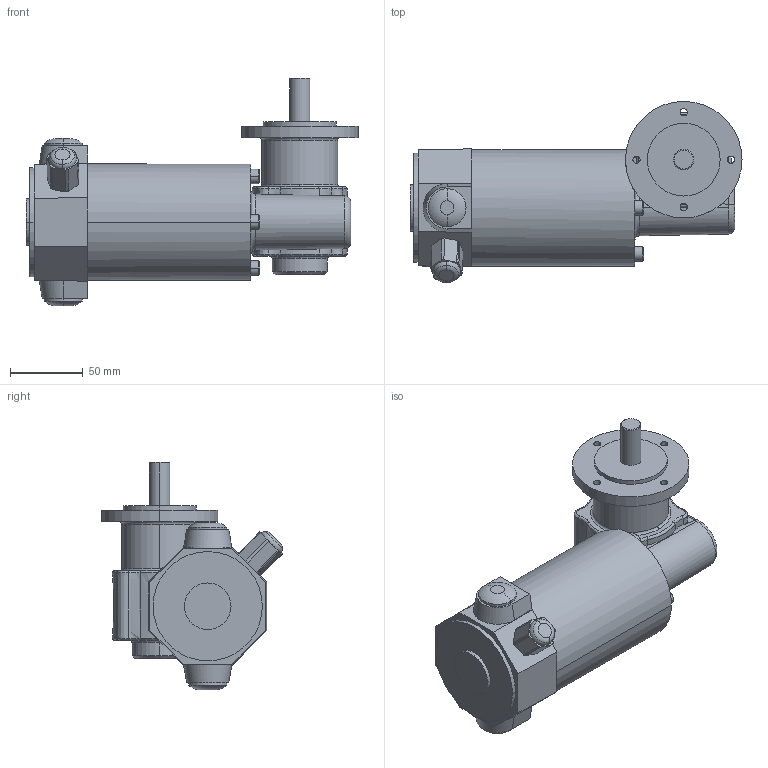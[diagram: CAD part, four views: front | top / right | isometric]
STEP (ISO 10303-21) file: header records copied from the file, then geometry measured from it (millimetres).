
FILE_DESCRIPTION(('OneSpaceDesigner STEP Export'),'2;1');
FILE_NAME('EPG12_GF133.stp','2008-07-10T 8:24:23',(''),(''),'OneSpace Designer STEP processor (Jan. 2003) for AP214(CD)(Solid Model)','OneSpace Designer 12.01D 09-Jul-2004 (C) CoCreate Software GmbH','');
FILE_SCHEMA(('AUTOMOTIVE_DESIGN_CC2 {1 2 10303 214 -1 1 5 1}'));
Length unit declared in the file: millimetre
Products named in the file (2): EPG12_GF133
Assembly tree (1 placements, depth 2):
  EPG12_GF133
    EPG12_GF133
Bounding box: 228 x 124.4 x 156.5 mm (x, y, z)
Volume: 1172321 mm3; surface area: 88837.3 mm2
Topology: 1 solids, 1 shells, 185 faces, 465 edges, 297 vertices
Faces by surface type: plane 49, cylinder 46, bspline 41, extrusion 25, torus 14, cone 10
Entity records: 16004 total; most frequent: CARTESIAN_POINT 12284, ORIENTED_EDGE 930, DIRECTION 492, EDGE_CURVE 465, VERTEX_POINT 297, EDGE_LOOP 208, FACE_OUTER_BOUND 185, ADVANCED_FACE 185
